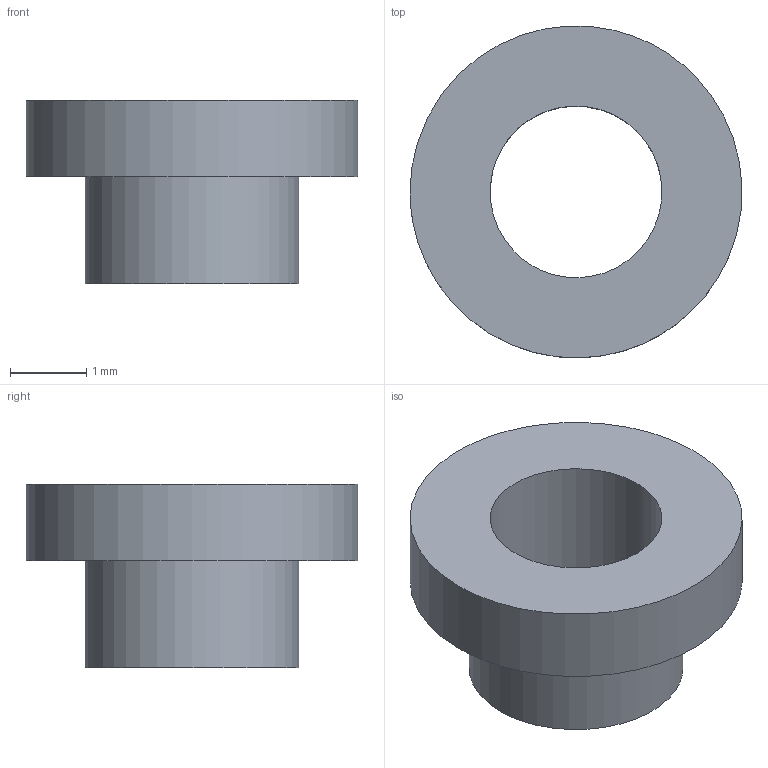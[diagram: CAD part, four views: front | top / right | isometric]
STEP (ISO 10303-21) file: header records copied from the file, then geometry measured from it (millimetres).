
FILE_DESCRIPTION(('FreeCAD Model'),'2;1');
FILE_NAME('Open CASCADE Shape Model','2026-03-20T17:23:00',('Author'),( ''),'Open CASCADE STEP processor 7.8','FreeCAD','Unknown');
FILE_SCHEMA(('AP242_MANAGED_MODEL_BASED_3D_ENGINEERING_MIM_LF. {1 0 10303 442 1 1 4 }'));
Length unit declared in the file: millimetre
Products named in the file (1): 1_transformed
Bounding box: 4.35 x 4.35 x 2.4 mm (x, y, z)
Volume: 14.1 mm3; surface area: 64.8 mm2
Topology: 1 solids, 1 shells, 6 faces, 9 edges, 6 vertices
Faces by surface type: bspline 6
Entity records: 201 total; most frequent: CARTESIAN_POINT 109, ORIENTED_EDGE 18, FACE_BOUND 9, EDGE_LOOP 9, EDGE_CURVE 9, ADVANCED_FACE 6, VERTEX_POINT 6, B_SPLINE_SURFACE_WITH_KNOTS 3
